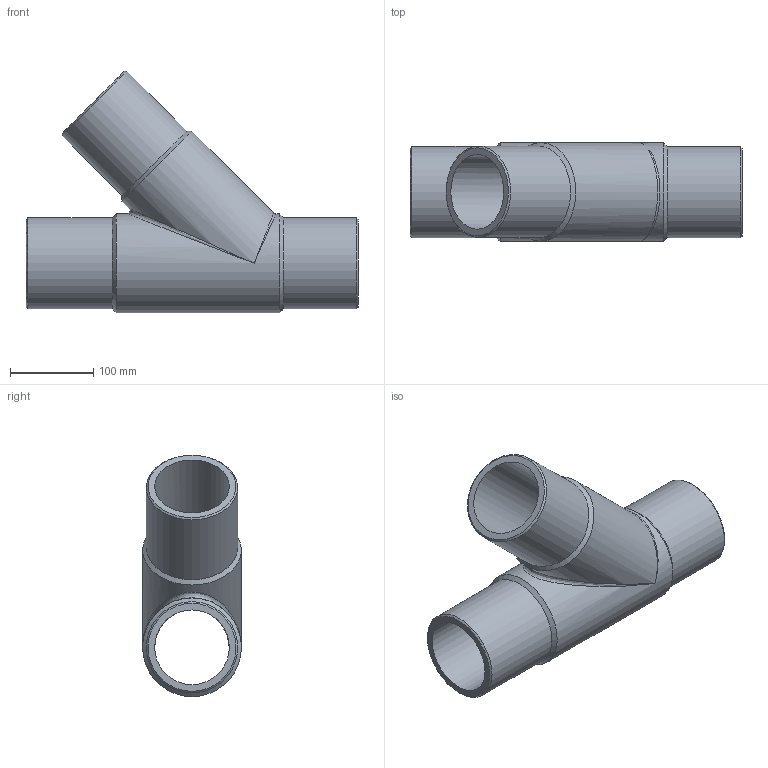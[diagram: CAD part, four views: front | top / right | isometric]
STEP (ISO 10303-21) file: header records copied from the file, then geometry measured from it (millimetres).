
FILE_DESCRIPTION(/* description */ ('Unknown'),/* implementation_level */ '2;1');
FILE_NAME(/* name */ 'T4P110C',/* time_stamp */ '2022-02-23T10:54:53+01:00',/* author */ ('Unknown'),/* organization */ ('Unknown'),/* preprocessor_version */ 'ST-DEVELOPER v18.1',/* originating_system */ 'Solid Edge',/* authorisation */ 'Unknown');
FILE_SCHEMA (('AUTOMOTIVE_DESIGN {1 0 10303 214 3 1 1}'));
Length unit declared in the file: millimetre
Products named in the file (1): T4P110C
Bounding box: 400 x 119 x 290.83 mm (x, y, z)
Volume: 2264332.6 mm3; surface area: 380615.2 mm2
Topology: 1 solids, 1 shells, 18 faces, 47 edges, 26 vertices
Faces by surface type: cylinder 7, cone 6, plane 3, bspline 2
Full cylindrical faces by diameter (mm): 90 x2, 110 x3, 119 x2
Entity records: 516 total; most frequent: CARTESIAN_POINT 159, DIRECTION 76, ORIENTED_EDGE 42, AXIS2_PLACEMENT_3D 38, EDGE_LOOP 36, FACE_BOUND 36, EDGE_CURVE 21, VERTEX_POINT 19
